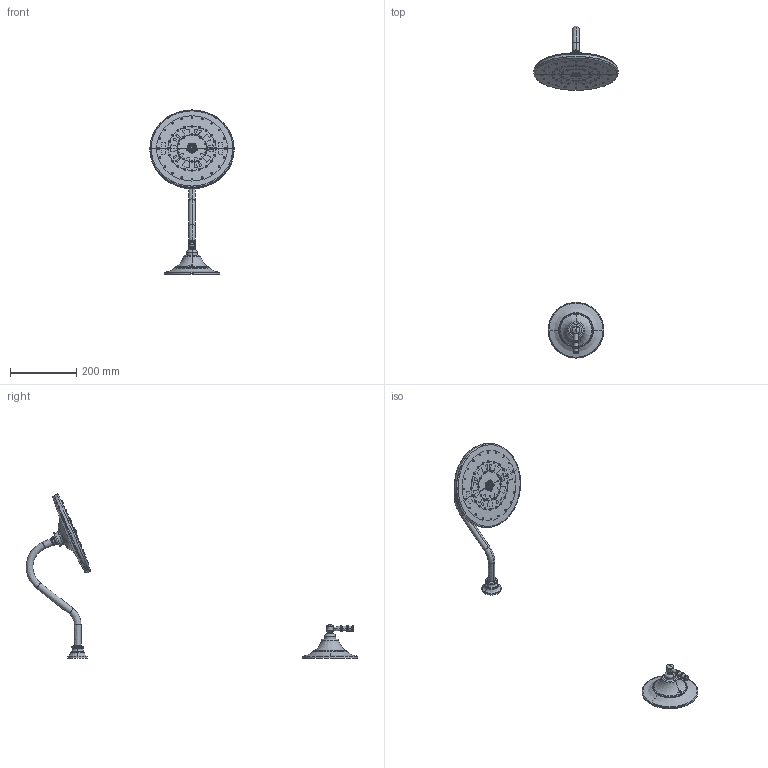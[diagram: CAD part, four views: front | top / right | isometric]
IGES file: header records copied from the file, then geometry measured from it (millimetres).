
Start section:  PTC IGES file: sku_ts8812.igs
Global section: file name: sku_ts8812.igs; native system: Pro/ENGINEER by Parametric Technology Corporation; preprocessor: 2006460; author: 9dutterb; organization: Unknown; date: 20071115.142037; units: inch
Bounding box: 254.36 x 1001.7 x 495.2 mm (x, y, z)
Surface area: 406635.2 mm2 (no closed solid volume)
Topology: 0 solids, 0 shells, 445 faces, 2469 edges, 2467 vertices
Faces by surface type: revolution 398, bspline 47
